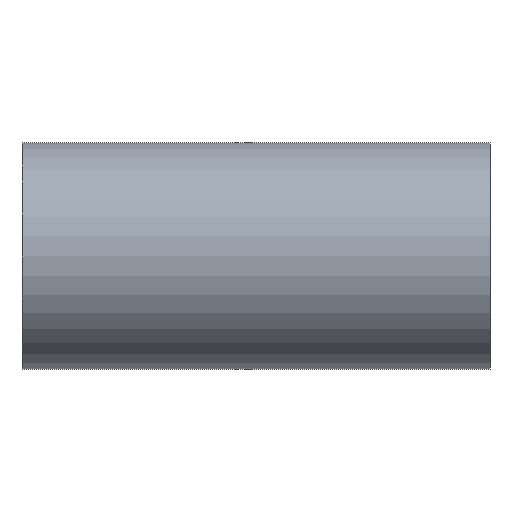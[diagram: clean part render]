
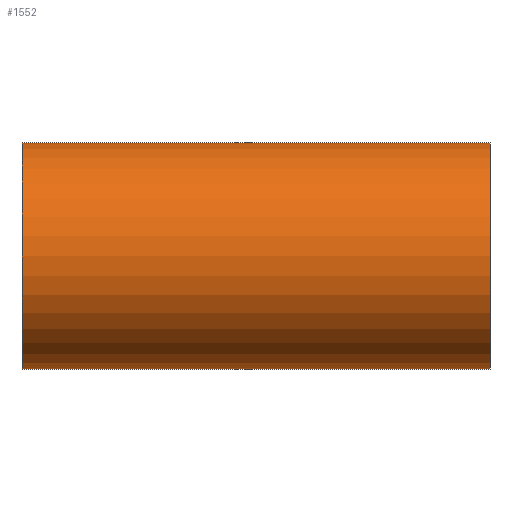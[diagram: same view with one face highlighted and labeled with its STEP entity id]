
A CAD part, front view. The second image highlights one B-rep face of the part: STEP entity #1552.
In plain terms, the highlighted cylindrical face has radius 50.8 mm (diameter 101.6 mm), a partial arc.
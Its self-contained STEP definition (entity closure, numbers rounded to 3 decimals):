
#24 = DIRECTION ( 'NONE',  ( 1., 0., 0. ) ) ;
#47 = AXIS2_PLACEMENT_3D ( 'NONE', #55, #24, #188 ) ;
#55 = CARTESIAN_POINT ( 'NONE',  ( -104.8, 0., 0. ) ) ;
#71 = ORIENTED_EDGE ( 'NONE', *, *, #703, .T. ) ;
#188 = DIRECTION ( 'NONE',  ( 0., 0., -1. ) ) ;
#278 = ORIENTED_EDGE ( 'NONE', *, *, #1451, .T. ) ;
#280 = CARTESIAN_POINT ( 'NONE',  ( -104.8, 0., 0. ) ) ;
#305 = DIRECTION ( 'NONE',  ( 1., 0., 0. ) ) ;
#357 = VERTEX_POINT ( 'NONE', #628 ) ;
#628 = CARTESIAN_POINT ( 'NONE',  ( -104.8, 0., -50.8 ) ) ;
#703 = EDGE_CURVE ( 'NONE', #357, #1732, #2096, .T. ) ;
#883 = CARTESIAN_POINT ( 'NONE',  ( -104.8, 0., -50.8 ) ) ;
#906 = CARTESIAN_POINT ( 'NONE',  ( 104.8, 0., -50.8 ) ) ;
#933 = ORIENTED_EDGE ( 'NONE', *, *, #1447, .F. ) ;
#943 = CARTESIAN_POINT ( 'NONE',  ( -104.8, 0., 50.8 ) ) ;
#963 = VECTOR ( 'NONE', #1569, 1000. ) ;
#978 = VECTOR ( 'NONE', #1568, 1000. ) ;
#1018 = VERTEX_POINT ( 'NONE', #943 ) ;
#1040 = CIRCLE ( 'NONE', #1177, 50.8 ) ;
#1059 = FACE_OUTER_BOUND ( 'NONE', #1399, .T. ) ;
#1092 = EDGE_CURVE ( 'NONE', #1018, #357, #2074, .T. ) ;
#1124 = AXIS2_PLACEMENT_3D ( 'NONE', #280, #305, #1339 ) ;
#1161 = CYLINDRICAL_SURFACE ( 'NONE', #47, 50.8 ) ;
#1177 = AXIS2_PLACEMENT_3D ( 'NONE', #1764, #1766, #1791 ) ;
#1192 = LINE ( 'NONE', #1528, #978 ) ;
#1339 = DIRECTION ( 'NONE',  ( 0., 0., -1. ) ) ;
#1399 = EDGE_LOOP ( 'NONE', ( #933, #1557, #71, #278 ) ) ;
#1447 = EDGE_CURVE ( 'NONE', #1018, #1484, #1192, .T. ) ;
#1451 = EDGE_CURVE ( 'NONE', #1732, #1484, #1040, .T. ) ;
#1484 = VERTEX_POINT ( 'NONE', #1839 ) ;
#1528 = CARTESIAN_POINT ( 'NONE',  ( -104.8, 0., 50.8 ) ) ;
#1552 = ADVANCED_FACE ( 'NONE', ( #1059 ), #1161, .T. ) ;
#1557 = ORIENTED_EDGE ( 'NONE', *, *, #1092, .T. ) ;
#1568 = DIRECTION ( 'NONE',  ( 1., 0., 0. ) ) ;
#1569 = DIRECTION ( 'NONE',  ( 1., 0., 0. ) ) ;
#1732 = VERTEX_POINT ( 'NONE', #906 ) ;
#1764 = CARTESIAN_POINT ( 'NONE',  ( 104.8, 0., 0. ) ) ;
#1766 = DIRECTION ( 'NONE',  ( -1., 0., 0. ) ) ;
#1791 = DIRECTION ( 'NONE',  ( 0., 0., -1. ) ) ;
#1839 = CARTESIAN_POINT ( 'NONE',  ( 104.8, 0., 50.8 ) ) ;
#2074 = CIRCLE ( 'NONE', #1124, 50.8 ) ;
#2096 = LINE ( 'NONE', #883, #963 ) ;
